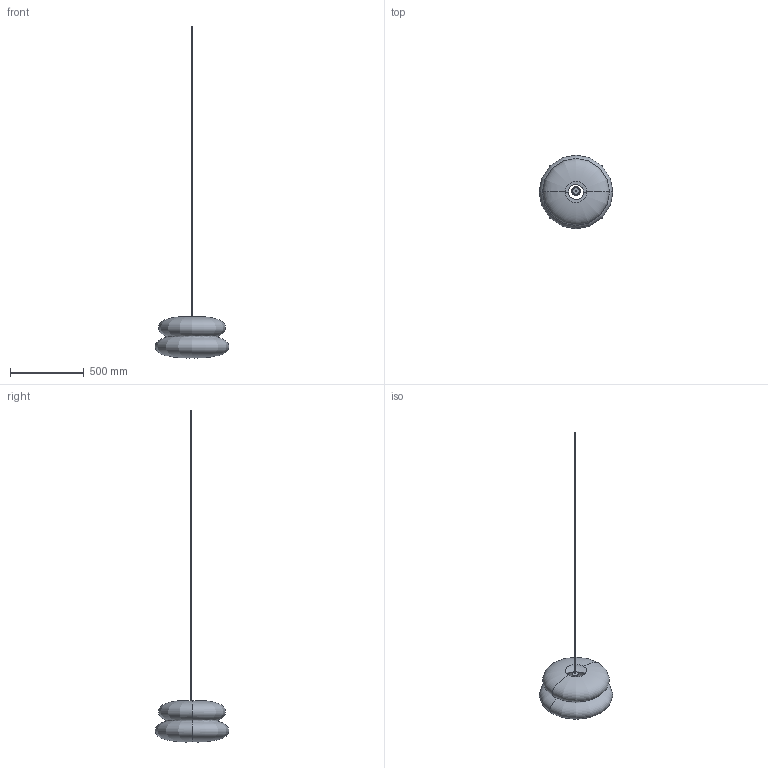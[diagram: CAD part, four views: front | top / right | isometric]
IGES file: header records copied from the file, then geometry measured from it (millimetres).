
Global section: file name: /Users/064_p/Desktop/3d data for homepage/SNOWMAN50 P.igs; native system: Rhinoceros ( Jul  7 2025 ); preprocessor: Trout Lake IGES 012 Jul  7 2025; date: 260805.074914; units: millimetre
Bounding box: 499.91 x 499.96 x 2252.7 mm (x, y, z)
Surface area: 743977.1 mm2 (no closed solid volume)
Topology: 0 solids, 0 shells, 10 faces, 90 edges, 86 vertices
Faces by surface type: bspline 10
